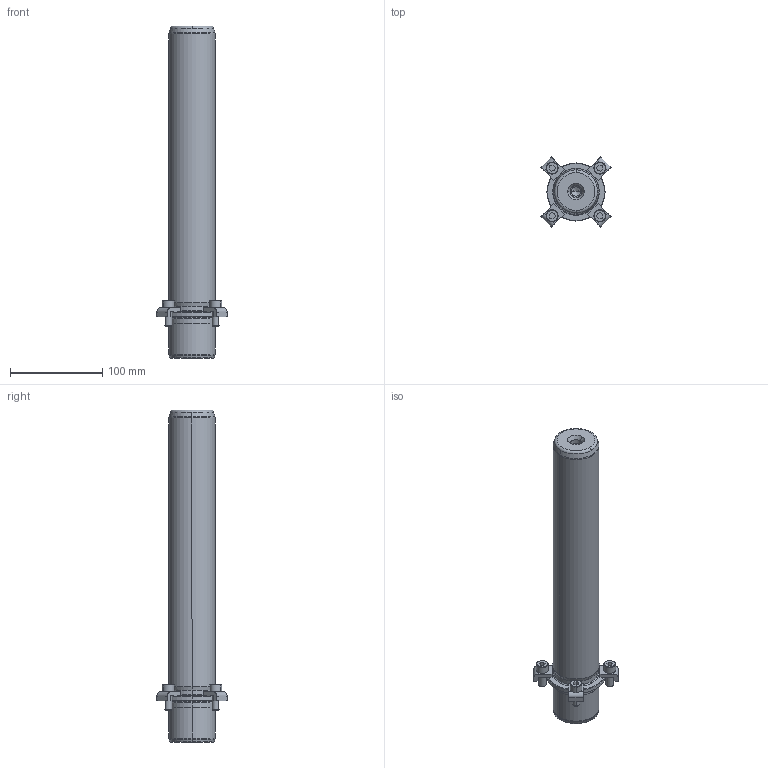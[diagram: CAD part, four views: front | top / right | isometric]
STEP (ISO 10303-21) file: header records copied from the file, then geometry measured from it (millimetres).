
FILE_DESCRIPTION((''),'2;1');
FILE_NAME('P21_050_315.stp','2008-12-23T13:45:15',(''),(''),'Mechanical Desktop 2009','Mechanical Desktop 2009',', , ');
FILE_SCHEMA(('CONFIG_CONTROL_DESIGN'));
Length unit declared in the file: millimetre
Products named in the file (2): Product; blmdl1
Assembly tree (1 placements, depth 2):
  Product
    blmdl1
Bounding box: 76.01 x 76.01 x 360 mm (x, y, z)
Volume: 715027.9 mm3; surface area: 73917.5 mm2
Topology: 9 solids, 9 shells, 195 faces, 477 edges, 309 vertices
Faces by surface type: plane 77, cylinder 52, cone 34, torus 16, bspline 16
Entity records: 6547 total; most frequent: CARTESIAN_POINT 1683, DIRECTION 1078, ORIENTED_EDGE 946, EDGE_CURVE 473, AXIS2_PLACEMENT_3D 424, VERTEX_POINT 309, CIRCLE 243, VECTOR 230
